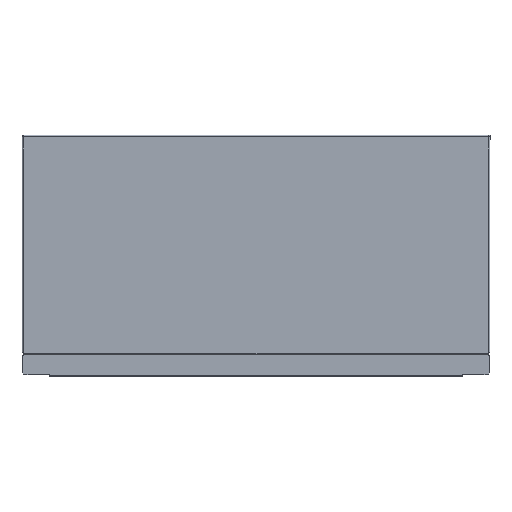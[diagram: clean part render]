
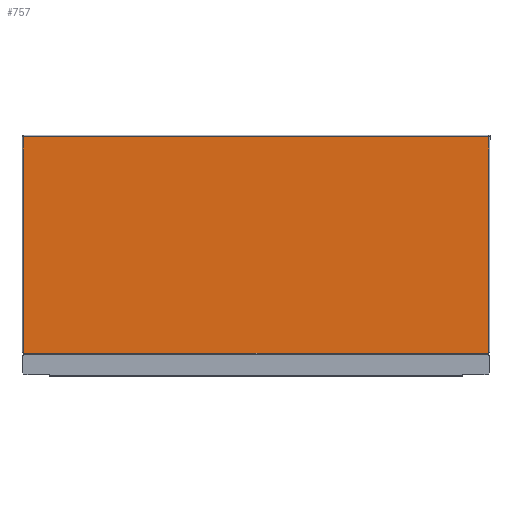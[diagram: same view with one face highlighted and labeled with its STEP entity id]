
A CAD part, front view. The second image highlights one B-rep face of the part: STEP entity #757.
In plain terms, the highlighted planar face has unit normal (0, -1, 0).
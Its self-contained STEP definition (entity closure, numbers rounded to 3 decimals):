
#21 = DIRECTION ( 'NONE',  ( 1., 0., 0. ) ) ;
#22 = DIRECTION ( 'NONE',  ( 0., -1., 0. ) ) ;
#24 = CARTESIAN_POINT ( 'NONE',  ( -180., -6., 17. ) ) ;
#25 = PLANE ( 'NONE',  #645 ) ;
#172 = VERTEX_POINT ( 'NONE', #408 ) ;
#177 = VERTEX_POINT ( 'NONE', #407 ) ;
#182 = VERTEX_POINT ( 'NONE', #406 ) ;
#227 = VERTEX_POINT ( 'NONE', #397 ) ;
#234 = VERTEX_POINT ( 'NONE', #396 ) ;
#238 = VERTEX_POINT ( 'NONE', #395 ) ;
#243 = VERTEX_POINT ( 'NONE', #394 ) ;
#248 = VERTEX_POINT ( 'NONE', #393 ) ;
#278 = VERTEX_POINT ( 'NONE', #385 ) ;
#290 = VERTEX_POINT ( 'NONE', #378 ) ;
#378 = CARTESIAN_POINT ( 'NONE',  ( 179., -6., 184. ) ) ;
#385 = CARTESIAN_POINT ( 'NONE',  ( -179., -6., 184. ) ) ;
#393 = CARTESIAN_POINT ( 'NONE',  ( 178.5, -6., 17. ) ) ;
#394 = CARTESIAN_POINT ( 'NONE',  ( 179., -6., 17.5 ) ) ;
#395 = CARTESIAN_POINT ( 'NONE',  ( 179., -6., 183.5 ) ) ;
#396 = CARTESIAN_POINT ( 'NONE',  ( -178.5, -6., 17. ) ) ;
#397 = CARTESIAN_POINT ( 'NONE',  ( 178.5, -6., 17.5 ) ) ;
#406 = CARTESIAN_POINT ( 'NONE',  ( -178.5, -6., 17.5 ) ) ;
#407 = CARTESIAN_POINT ( 'NONE',  ( -179., -6., 17.5 ) ) ;
#408 = CARTESIAN_POINT ( 'NONE',  ( -179., -6., 183.5 ) ) ;
#645 = AXIS2_PLACEMENT_3D ( 'NONE', #24, #22, #21 ) ;
#757 = ADVANCED_FACE ( 'NONE', ( #2100 ), #25, .T. ) ;
#988 = EDGE_LOOP ( 'NONE', ( #1920, #1919, #1918, #1917, #1916, #1915, #1914, #1913, #1912, #1911 ) ) ;
#1110 = DIRECTION ( 'NONE',  ( 1., 0., 0. ) ) ;
#1112 = CARTESIAN_POINT ( 'NONE',  ( -180., -6., 17.5 ) ) ;
#1116 = DIRECTION ( 'NONE',  ( 0., 0., -1. ) ) ;
#1118 = CARTESIAN_POINT ( 'NONE',  ( -179., -6., 202.385 ) ) ;
#1187 = DIRECTION ( 'NONE',  ( 0., 0., -1. ) ) ;
#1188 = CARTESIAN_POINT ( 'NONE',  ( -179., -6., 202.385 ) ) ;
#1190 = DIRECTION ( 'NONE',  ( 1., 0., 0. ) ) ;
#1191 = CARTESIAN_POINT ( 'NONE',  ( -180., -6., 184. ) ) ;
#1274 = CARTESIAN_POINT ( 'NONE',  ( -178.5, -6., 17.5 ) ) ;
#1275 = DIRECTION ( 'NONE',  ( 0., 0., -1. ) ) ;
#1276 = CARTESIAN_POINT ( 'NONE',  ( -180., -6., 17. ) ) ;
#1277 = DIRECTION ( 'NONE',  ( 1., 0., 0. ) ) ;
#1278 = CARTESIAN_POINT ( 'NONE',  ( 178.5, -6., 15.3 ) ) ;
#1279 = DIRECTION ( 'NONE',  ( 0., 0., 1. ) ) ;
#1280 = CARTESIAN_POINT ( 'NONE',  ( 178.5, -6., 17.5 ) ) ;
#1281 = DIRECTION ( 'NONE',  ( 1., 0., 0. ) ) ;
#1282 = CARTESIAN_POINT ( 'NONE',  ( 179., -6., 202.385 ) ) ;
#1283 = DIRECTION ( 'NONE',  ( 0., 0., -1. ) ) ;
#1284 = CARTESIAN_POINT ( 'NONE',  ( 179., -6., 202.385 ) ) ;
#1285 = DIRECTION ( 'NONE',  ( 0., 0., -1. ) ) ;
#1390 = EDGE_CURVE ( 'NONE', #278, #290, #2257, .T. ) ;
#1391 = EDGE_CURVE ( 'NONE', #278, #172, #2259, .T. ) ;
#1482 = EDGE_CURVE ( 'NONE', #172, #177, #2298, .T. ) ;
#1491 = EDGE_CURVE ( 'NONE', #177, #182, #2303, .T. ) ;
#1911 = ORIENTED_EDGE ( 'NONE', *, *, #1391, .T. ) ;
#1912 = ORIENTED_EDGE ( 'NONE', *, *, #1390, .F. ) ;
#1913 = ORIENTED_EDGE ( 'NONE', *, *, #2484, .F. ) ;
#1914 = ORIENTED_EDGE ( 'NONE', *, *, #2483, .F. ) ;
#1915 = ORIENTED_EDGE ( 'NONE', *, *, #2482, .T. ) ;
#1916 = ORIENTED_EDGE ( 'NONE', *, *, #2481, .T. ) ;
#1917 = ORIENTED_EDGE ( 'NONE', *, *, #2480, .T. ) ;
#1918 = ORIENTED_EDGE ( 'NONE', *, *, #2479, .T. ) ;
#1919 = ORIENTED_EDGE ( 'NONE', *, *, #1491, .T. ) ;
#1920 = ORIENTED_EDGE ( 'NONE', *, *, #1482, .T. ) ;
#2100 = FACE_OUTER_BOUND ( 'NONE', #988, .T. ) ;
#2257 = LINE ( 'NONE', #1191, #2258 ) ;
#2258 = VECTOR ( 'NONE', #1190, 1000. ) ;
#2259 = LINE ( 'NONE', #1188, #2260 ) ;
#2260 = VECTOR ( 'NONE', #1187, 1000. ) ;
#2298 = LINE ( 'NONE', #1118, #2300 ) ;
#2300 = VECTOR ( 'NONE', #1116, 1000. ) ;
#2303 = LINE ( 'NONE', #1112, #2304 ) ;
#2304 = VECTOR ( 'NONE', #1110, 1000. ) ;
#2405 = LINE ( 'NONE', #1274, #2406 ) ;
#2406 = VECTOR ( 'NONE', #1275, 1000. ) ;
#2407 = LINE ( 'NONE', #1276, #2408 ) ;
#2408 = VECTOR ( 'NONE', #1277, 1000. ) ;
#2409 = LINE ( 'NONE', #1278, #2410 ) ;
#2410 = VECTOR ( 'NONE', #1279, 1000. ) ;
#2411 = LINE ( 'NONE', #1280, #2412 ) ;
#2412 = VECTOR ( 'NONE', #1281, 1000. ) ;
#2413 = LINE ( 'NONE', #1282, #2414 ) ;
#2414 = VECTOR ( 'NONE', #1283, 1000. ) ;
#2415 = LINE ( 'NONE', #1284, #2416 ) ;
#2416 = VECTOR ( 'NONE', #1285, 1000. ) ;
#2479 = EDGE_CURVE ( 'NONE', #182, #234, #2405, .T. ) ;
#2480 = EDGE_CURVE ( 'NONE', #234, #248, #2407, .T. ) ;
#2481 = EDGE_CURVE ( 'NONE', #248, #227, #2409, .T. ) ;
#2482 = EDGE_CURVE ( 'NONE', #227, #243, #2411, .T. ) ;
#2483 = EDGE_CURVE ( 'NONE', #238, #243, #2413, .T. ) ;
#2484 = EDGE_CURVE ( 'NONE', #290, #238, #2415, .T. ) ;
